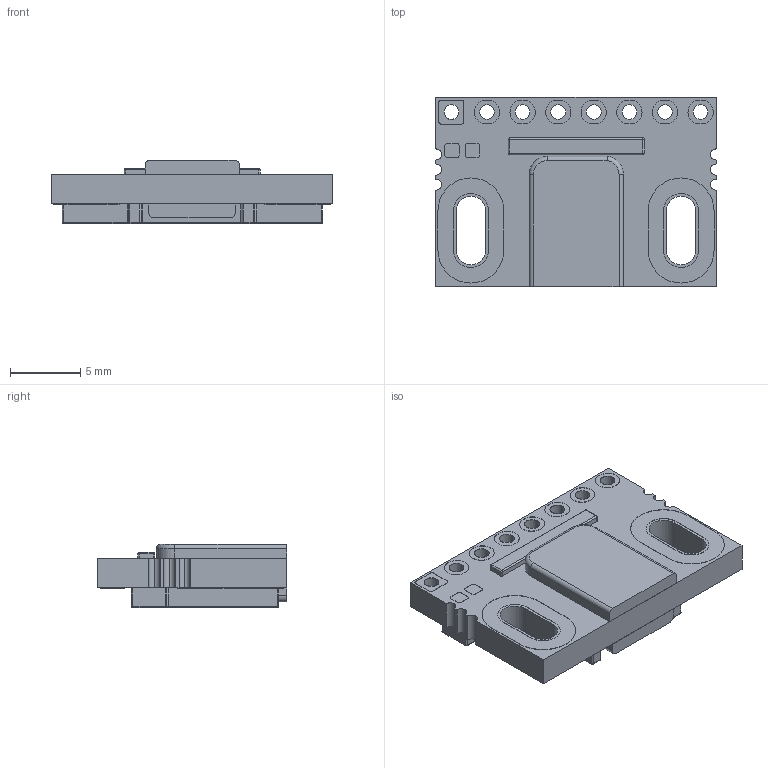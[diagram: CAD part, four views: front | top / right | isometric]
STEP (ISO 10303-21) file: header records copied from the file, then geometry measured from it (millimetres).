
FILE_DESCRIPTION (( 'STEP AP214' ), '1' );
FILE_NAME ('RLC2ICAxxxxxxA18.STEP', '2022-07-15T05:39:44', ( '' ), ( '' ), 'SwSTEP 2.0', 'SolidWorks 2020', '' );
FILE_SCHEMA (( 'AUTOMOTIVE_DESIGN' ));
Length unit declared in the file: millimetre
Products named in the file (1): RLC2ICAxxxxxxA18
Bounding box: 20 x 13.5 x 4.5 mm (x, y, z)
Volume: 723.3 mm3; surface area: 1216.4 mm2
Topology: 25 solids, 25 shells, 511 faces, 1324 edges, 858 vertices
Faces by surface type: plane 257, cylinder 179, bspline 55, sphere 12, torus 8
Entity records: 21311 total; most frequent: CARTESIAN_POINT 3681, ORIENTED_EDGE 2624, DIRECTION 2472, EDGE_CURVE 1312, VERTEX_POINT 858, VECTOR 830, LINE 830, AXIS2_PLACEMENT_3D 821
